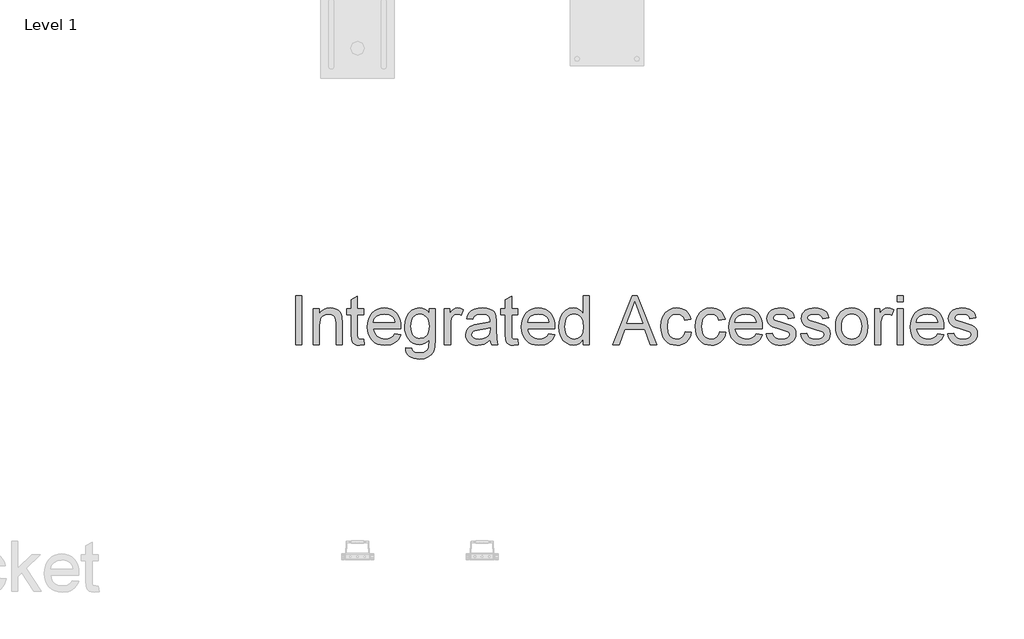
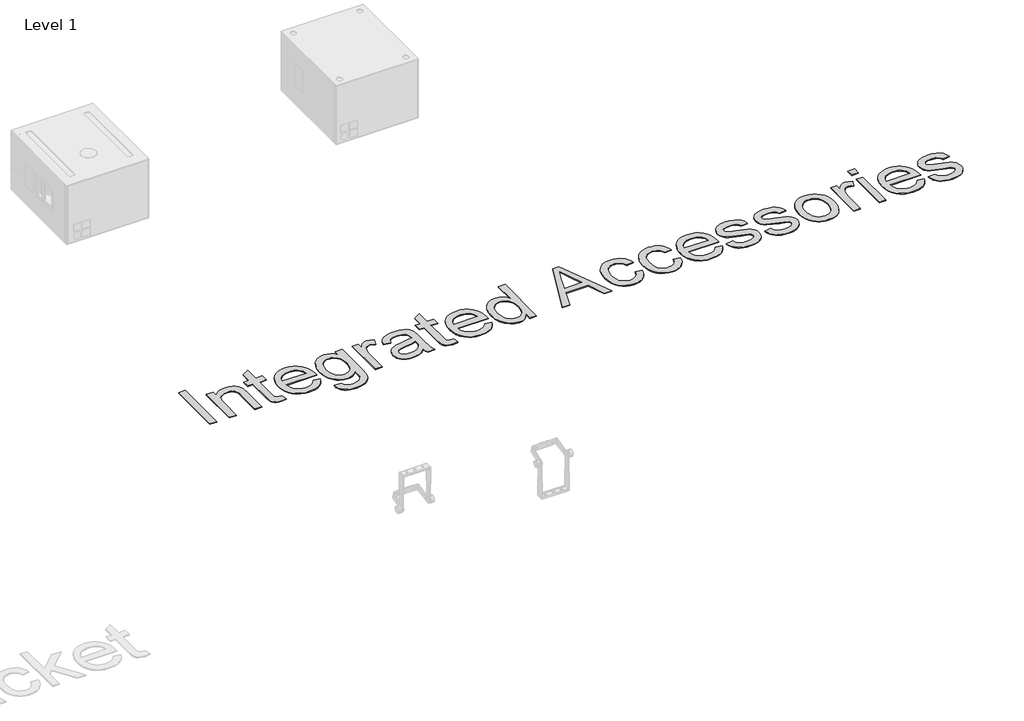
# One storey, part 24 of 29: 1 proxy.
"""IFC4 building model written with IfcOpenShell, lengths in millimetres."""

from ifc_helpers import new_model, si_unit, origin, origin_with_axes, place, context, project, spatial, polyline, outline, extrude, element, save

model = new_model("IFC4")

# Units and contexts
model_context = context("Model", 3, world=origin())
ifc_project = project(units=[si_unit("LENGTHUNIT", "METRE", prefix="MILLI")], contexts=[model_context])

# Site, building, storey
site = spatial("IfcSite", under=ifc_project)
building = spatial("IfcBuilding", under=site)
storey = spatial("IfcBuildingStorey", under=building, Name="Level 1", Elevation=0.0)

# Proxy
placement = place(None, origin())
element("IfcBuildingElementProxy", 1, Name="400mm Arial", ObjectType="400mm Arial", at=placement, inside=storey, context=model_context, shape_type="SweptSolid", body=[
    extrude(outline(polyline([(-11437.7764845, 6146.5012301), (-11437.7764845, 6538.2588058), (-11388.8067875, 6538.2588058), (-11388.8067875, 6146.5012301), (-11437.7764845, 6146.5012301)])), origin_with_axes(), (0.0, 0.0, 1.0), 5.0),
    extrude(outline(polyline([(-11296.9886057, 6146.5012301), (-11296.9886057, 6434.1981998), (-11248.0189088, 6434.1981998), (-11248.0189088, 6394.0277452), (-11231.006243, 6414.2803494), (-11210.5743065, 6428.7464952), (-11186.7230991, 6437.4261827), (-11159.4526209, 6440.3194119), (-11135.3144817, 6437.9880909), (-11113.2087762, 6430.9941278), (-11094.7734069, 6420.2102736), (-11081.6462762, 6406.5092793), (-11072.7394343, 6389.9270113), (-11066.9649315, 6370.4993361), (-11064.3825451, 6323.1555861), (-11064.3825451, 6146.5012301), (-11113.3522421, 6146.5012301), (-11113.3522421, 6316.5561543), (-11114.7629902, 6341.8778873), (-11118.9952345, 6359.8828588), (-11126.8021711, 6372.7828352), (-11138.9369959, 6382.7895823), (-11154.4910915, 6389.2096818), (-11172.5558406, 6391.3497149), (-11201.2370669, 6386.543607), (-11225.6860489, 6372.1252831), (-11235.4566751, 6360.3551008), (-11242.4356938, 6344.2689857), (-11246.623105, 6323.8669379), (-11248.0189088, 6299.1489573), (-11248.0189088, 6146.5012301), (-11296.9886057, 6146.5012301)])), origin_with_axes(), (0.0, 0.0, 1.0), 5.0),
    extrude(outline(polyline([(-10892.9886057, 6187.3411922), (-10886.8673936, 6145.066571), (-10923.4990224, 6140.3800179), (-10947.0035205, 6142.4124517), (-10964.5302724, 6148.5097528), (-10976.9161625, 6157.9067698), (-10984.9980754, 6169.8383513), (-10989.4455186, 6190.3300653), (-10990.9279997, 6225.4074801), (-10990.9279997, 6385.2285028), (-11027.6552724, 6385.2285028), (-11027.6552724, 6434.1981998), (-10990.9279997, 6434.1981998), (-10990.9279997, 6504.1139195), (-10941.9583027, 6532.9027452), (-10941.9583027, 6434.1981998), (-10892.9886057, 6434.1981998), (-10892.9886057, 6385.2285028), (-10941.9583027, 6385.2285028), (-10941.9583027, 6226.8421392), (-10939.3759163, 6201.5921392), (-10931.0070716, 6192.6494308), (-10914.3172042, 6189.3497149), (-10892.9886057, 6187.3411922)])), origin_with_axes(), (0.0, 0.0, 1.0), 5.0),
    extrude(outline(polyline([(-10642.5927724, 6232.1981998), (-10594.5795148, 6226.0769876), (-10601.9411093, 6206.8465781), (-10611.8791124, 6189.8996676), (-10624.3935241, 6175.2362561), (-10639.4843444, 6162.8563437), (-10656.9961519, 6153.0229512), (-10676.7735252, 6145.9990994), (-10723.1249694, 6140.3800179), (-10753.5098534, 6142.803994), (-10780.583066, 6150.0759223), (-10804.3446071, 6162.1958027), (-10824.7944769, 6179.1636354), (-10841.2392568, 6200.5071782), (-10852.9855281, 6225.7541893), (-10860.0332909, 6254.9046687), (-10862.3825451, 6287.9586164), (-10860.0093799, 6322.1333915), (-10852.8898841, 6352.2552547), (-10841.0240579, 6378.3242059), (-10824.4119012, 6400.3402452), (-10804.0158311, 6417.8311306), (-10780.7982648, 6430.3246202), (-10754.7592023, 6437.820714), (-10725.8986436, 6440.3194119), (-10697.9676244, 6437.8266917), (-10672.7086578, 6430.3485312), (-10650.1217438, 6417.8849303), (-10630.2068822, 6400.4358892), (-10613.9504014, 6378.4676718), (-10602.3386294, 6352.4465426), (-10595.3715662, 6322.3725014), (-10593.0492118, 6288.2455482), (-10593.3361436, 6275.0466846), (-10813.4128482, 6275.0466846), (-10810.5764076, 6255.5054322), (-10804.936404, 6238.3911448), (-10796.4928375, 6223.7038224), (-10785.245708, 6211.4434649), (-10756.8275025, 6194.8731524), (-10722.16853, 6189.3497149), (-10696.1055565, 6191.9081903), (-10674.1552724, 6199.5836164), (-10656.3176777, 6212.854213), (-10642.5927724, 6232.1981998)]), holes=[polyline([(-10813.4128482, 6324.0163816), (-10642.0189088, 6324.0163816), (-10648.6422516, 6349.8880672), (-10661.6259163, 6368.3951695), (-10674.9802014, 6378.4377831), (-10690.1756322, 6385.6110785), (-10726.0899315, 6391.3497149), (-10759.0990461, 6386.7707613), (-10786.3934353, 6373.0339005), (-10805.3668018, 6351.6216136), (-10813.4128482, 6324.0163816)])]), origin_with_axes(), (0.0, 0.0, 1.0), 5.0),
    extrude(outline(polyline([(-10556.3219391, 6122.0163816), (-10507.3522421, 6115.8951695), (-10501.9483595, 6100.5921392), (-10491.4753482, 6090.0713058), (-10470.8879902, 6081.893749), (-10443.9403103, 6079.1678967), (-10415.1993065, 6082.2524138), (-10393.822886, 6091.5059649), (-10378.9980754, 6106.3307755), (-10369.9119012, 6126.129071), (-10366.5643633, 6183.2285028), (-10382.8596995, 6167.160321), (-10401.0440035, 6155.6830482), (-10421.1172752, 6148.7966846), (-10443.0795148, 6146.5012301), (-10469.9285619, 6149.1732826), (-10493.5675593, 6157.1894403), (-10513.996507, 6170.5497031), (-10531.215405, 6189.254071), (-10544.8775439, 6211.6945302), (-10554.6362146, 6236.2630672), (-10560.491417, 6262.9596818), (-10562.4431512, 6291.784374), (-10558.9401919, 6331.3211874), (-10548.4313141, 6367.6778399), (-10531.2871379, 6398.4871439), (-10507.8782838, 6421.3819119), (-10479.0057696, 6435.5850369), (-10445.4706133, 6440.3194119), (-10422.5698676, 6437.6413816), (-10401.785244, 6429.6072907), (-10383.1167426, 6416.2171392), (-10366.5643633, 6397.470927), (-10366.5643633, 6434.1981998), (-10317.5946663, 6434.1981998), (-10317.5946663, 6185.8108892), (-10320.9422042, 6128.460392), (-10330.9848179, 6090.6929914), (-10348.2844154, 6065.6462348), (-10373.402905, 6046.4576695), (-10405.7903339, 6034.2630672), (-10444.8967497, 6030.1981998), (-10490.4591313, 6035.9248806), (-10509.6088413, 6043.0832317), (-10526.3375641, 6053.1049232), (-10539.8502594, 6066.0019107), (-10549.351887, 6081.7861496), (-10554.8424469, 6100.4576399), (-10556.3219391, 6122.0163816)]), holes=[polyline([(-10513.4734542, 6295.1319119), (-10508.248904, 6250.2151268), (-10501.7182163, 6233.0201399), (-10492.5752535, 6219.3340899), (-10481.4596344, 6208.8939561), (-10469.0109779, 6201.4367177), (-10455.229284, 6196.9623747), (-10440.1145527, 6195.470927), (-10411.4333264, 6201.4008513), (-10387.7494959, 6219.190624), (-10378.4810004, 6232.7421747), (-10371.8606464, 6249.6771297), (-10366.5643633, 6293.6972528), (-10372.0160679, 6336.1512064), (-10378.8306985, 6352.9217734), (-10388.3711815, 6366.7214005), (-10412.4017213, 6385.1926363), (-10426.0847823, 6389.8104453), (-10440.8797042, 6391.3497149), (-10455.4265496, 6389.8343562), (-10468.843601, 6385.2882802), (-10492.2883216, 6367.1039763), (-10501.5568171, 6353.5135703), (-10508.1771711, 6336.9880909), (-10513.4734542, 6295.1319119)])]), origin_with_axes(), (0.0, 0.0, 1.0), 5.0),
    extrude(outline(polyline([(-10244.1401209, 6146.5012301), (-10244.1401209, 6434.1981998), (-10201.291636, 6434.1981998), (-10201.291636, 6391.6366467), (-10185.4625641, 6416.3127831), (-10170.8768633, 6430.8506619), (-10156.2433406, 6437.9522244), (-10140.2708027, 6440.3194119), (-10115.8815982, 6436.5414763), (-10091.1098179, 6425.2076695), (-10107.4649315, 6381.3071013), (-10124.6808406, 6388.8390615), (-10141.8967497, 6391.3497149), (-10156.5183169, 6388.9347054), (-10169.5856701, 6381.689677), (-10180.1423699, 6370.1645823), (-10187.2319769, 6354.909374), (-10193.1858122, 6327.5552073), (-10195.1704239, 6297.7142982), (-10195.1704239, 6146.5012301), (-10244.1401209, 6146.5012301)])), origin_with_axes(), (0.0, 0.0, 1.0), 5.0),
    extrude(outline(polyline([(-9876.8673936, 6183.2285028), (-9900.2642923, 6163.1671865), (-9924.3546095, 6150.0400558), (-9949.688298, 6142.7950274), (-9976.8153103, 6140.3800179), (-9998.6191396, 6141.8326103), (-10017.7389608, 6146.1903873), (-10034.1747741, 6153.4533489), (-10047.9265792, 6163.6214952), (-10058.7851552, 6176.0492296), (-10066.5412809, 6190.0909554), (-10071.1949563, 6205.7466728), (-10072.7461815, 6223.0163816), (-10070.402905, 6243.3168077), (-10063.3730754, 6261.752177), (-10052.5294438, 6277.533427), (-10038.744761, 6289.8714952), (-10004.4564088, 6305.939677), (-9962.0861436, 6313.3042604), (-9912.0165413, 6321.0514195), (-9877.1543254, 6330.1375937), (-9876.8673936, 6341.0410028), (-9880.2388425, 6362.8956429), (-9890.3531891, 6377.1944119), (-9912.9729807, 6387.8108892), (-9944.4876588, 6391.3497149), (-9973.6590603, 6388.9944829), (-9994.0312194, 6381.9287869), (-10007.9235016, 6368.8614337), (-10017.6552724, 6348.5012301), (-10066.6249694, 6354.6224422), (-10058.1246143, 6381.4027452), (-10045.4398368, 6402.4444119), (-10027.3870432, 6418.5365047), (-10002.7826398, 6430.4680861), (-9972.6906654, 6437.8565804), (-9938.1751588, 6440.3194119), (-9905.0704002, 6438.1435123), (-9878.8280944, 6431.6158134), (-9859.0417544, 6421.8003541), (-9845.3048936, 6409.7611732), (-9836.1948084, 6394.8765852), (-9830.2887951, 6376.5249043), (-9827.8976966, 6333.6764195), (-9827.8976966, 6272.7512301), (-9825.4109542, 6187.675946), (-9815.6552724, 6146.5012301), (-9864.6249694, 6146.5012301), (-9872.4677724, 6163.5258513), (-9876.8673936, 6183.2285028)]), holes=[polyline([(-9876.8673936, 6281.1678967), (-9909.7689088, 6273.0142509), (-9955.8692875, 6266.1517982), (-9998.0004429, 6258.2133513), (-10008.9636294, 6252.7855577), (-10017.0814088, 6245.3014195), (-10022.1027156, 6236.3348001), (-10023.7764845, 6226.4595634), (-10020.1300593, 6211.8977736), (-10009.1907838, 6199.9661922), (-9991.1977677, 6192.0038342), (-9966.3901209, 6189.3497149), (-9940.0880375, 6192.2788106), (-9916.8465603, 6201.0660975), (-9898.0047042, 6214.0138958), (-9884.9014845, 6229.4245255), (-9879.0911152, 6245.3014195), (-9877.1543254, 6267.2995255), (-9876.8673936, 6281.1678967)])]), origin_with_axes(), (0.0, 0.0, 1.0), 5.0),
    extrude(outline(polyline([(-9656.5037572, 6187.3411922), (-9650.3825451, 6145.066571), (-9687.0141739, 6140.3800179), (-9710.518672, 6142.4124517), (-9728.0454239, 6148.5097528), (-9740.4313141, 6157.9067698), (-9748.5132269, 6169.8383513), (-9752.9606701, 6190.3300653), (-9754.4431512, 6225.4074801), (-9754.4431512, 6385.2285028), (-9791.1704239, 6385.2285028), (-9791.1704239, 6434.1981998), (-9754.4431512, 6434.1981998), (-9754.4431512, 6504.1139195), (-9705.4734542, 6532.9027452), (-9705.4734542, 6434.1981998), (-9656.5037572, 6434.1981998), (-9656.5037572, 6385.2285028), (-9705.4734542, 6385.2285028), (-9705.4734542, 6226.8421392), (-9702.8910679, 6201.5921392), (-9694.5222232, 6192.6494308), (-9677.8323557, 6189.3497149), (-9656.5037572, 6187.3411922)])), origin_with_axes(), (0.0, 0.0, 1.0), 5.0),
    extrude(outline(polyline([(-9406.1079239, 6232.1981998), (-9358.0946663, 6226.0769876), (-9365.4562608, 6206.8465781), (-9375.3942639, 6189.8996676), (-9387.9086756, 6175.2362561), (-9402.9994959, 6162.8563437), (-9420.5113034, 6153.0229512), (-9440.2886768, 6145.9990994), (-9486.6401209, 6140.3800179), (-9517.0250049, 6142.803994), (-9544.0982175, 6150.0759223), (-9567.8597587, 6162.1958027), (-9588.3096285, 6179.1636354), (-9604.7544083, 6200.5071782), (-9616.5006796, 6225.7541893), (-9623.5484424, 6254.9046687), (-9625.8976966, 6287.9586164), (-9623.5245314, 6322.1333915), (-9616.4050357, 6352.2552547), (-9604.5392094, 6378.3242059), (-9587.9270527, 6400.3402452), (-9567.5309826, 6417.8311306), (-9544.3134163, 6430.3246202), (-9518.2743538, 6437.820714), (-9489.4137951, 6440.3194119), (-9461.4827759, 6437.8266917), (-9436.2238093, 6430.3485312), (-9413.6368953, 6417.8849303), (-9393.7220338, 6400.4358892), (-9377.4655529, 6378.4676718), (-9365.8537809, 6352.4465426), (-9358.8867177, 6322.3725014), (-9356.5643633, 6288.2455482), (-9356.8512951, 6275.0466846), (-9576.9279997, 6275.0466846), (-9574.0915591, 6255.5054322), (-9568.4515555, 6238.3911448), (-9560.007989, 6223.7038224), (-9548.7608595, 6211.4434649), (-9520.342654, 6194.8731524), (-9485.6836815, 6189.3497149), (-9459.620708, 6191.9081903), (-9437.6704239, 6199.5836164), (-9419.8328292, 6212.854213), (-9406.1079239, 6232.1981998)]), holes=[polyline([(-9576.9279997, 6324.0163816), (-9405.5340603, 6324.0163816), (-9412.1574031, 6349.8880672), (-9425.1410679, 6368.3951695), (-9438.4953529, 6378.4377831), (-9453.6907838, 6385.6110785), (-9489.605083, 6391.3497149), (-9522.6141976, 6386.7707613), (-9549.9085868, 6373.0339005), (-9568.8819533, 6351.6216136), (-9576.9279997, 6324.0163816)])]), origin_with_axes(), (0.0, 0.0, 1.0), 5.0),
    extrude(outline(polyline([(-9130.0795148, 6146.5012301), (-9130.0795148, 6192.6972528), (-9144.7309708, 6169.8084625), (-9162.4788993, 6153.4593267), (-9183.3233003, 6143.6498451), (-9207.2641739, 6140.3800179), (-9238.9223179, 6145.1143929), (-9267.9024315, 6159.3175179), (-9292.4351019, 6181.9970871), (-9310.7509163, 6212.1607945), (-9322.1564561, 6248.5891799), (-9325.9583027, 6290.0627831), (-9322.4553434, 6331.0223001), (-9311.9464656, 6368.0125937), (-9294.4436247, 6398.9294971), (-9269.9587762, 6421.6688437), (-9240.3450214, 6435.6567698), (-9207.4554618, 6440.3194119), (-9183.496655, 6436.9838295), (-9162.3115224, 6426.9770823), (-9144.3543728, 6411.6381856), (-9130.0795148, 6392.3061543), (-9130.0795148, 6538.2588058), (-9081.1098179, 6538.2588058), (-9081.1098179, 6146.5012301), (-9130.0795148, 6146.5012301)]), holes=[polyline([(-9276.9886057, 6290.254071), (-9271.4651682, 6245.9589715), (-9264.5608714, 6228.6085632), (-9254.8948557, 6214.456249), (-9230.816494, 6195.6263484), (-9217.2888543, 6190.9188733), (-9202.7689088, 6189.3497149), (-9174.733279, 6195.3394166), (-9151.2646474, 6213.3085217), (-9141.9961519, 6226.869039), (-9135.375798, 6243.591784), (-9130.0795148, 6286.5239573), (-9135.4714419, 6333.4612206), (-9142.2113508, 6351.5319474), (-9151.6472232, 6366.004071), (-9163.0557518, 6377.0927902), (-9175.7136294, 6385.0133039), (-9189.620856, 6389.7656122), (-9204.7774315, 6391.3497149), (-9219.5843089, 6389.8283785), (-9233.1119485, 6385.2643693), (-9245.3603505, 6377.6576872), (-9256.3295148, 6367.0083323), (-9265.3678671, 6353.0831725), (-9271.823833, 6335.6490757), (-9276.9886057, 6290.254071)])]), origin_with_axes(), (0.0, 0.0, 1.0), 5.0),
    extrude(outline(polyline([(-8894.0302724, 6146.5012301), (-8737.6524315, 6538.2588058), (-8695.9516739, 6538.2588058), (-8539.6694769, 6146.5012301), (-8591.4128482, 6146.5012301), (-8636.1742118, 6268.9254725), (-8797.6211815, 6268.9254725), (-8842.3825451, 6146.5012301), (-8894.0302724, 6146.5012301)]), holes=[polyline([(-8779.6401209, 6317.8951695), (-8654.0596285, 6317.8951695), (-8689.447886, 6414.2086164), (-8716.8976966, 6489.2891088), (-8741.2869012, 6422.6252831), (-8779.6401209, 6317.8951695)])]), origin_with_axes(), (0.0, 0.0, 1.0), 5.0),
    extrude(outline(polyline([(-8309.8370906, 6250.5618361), (-8260.8673936, 6244.440624), (-8266.1935655, 6221.333646), (-8274.520566, 6200.8867651), (-8285.848395, 6183.0999812), (-8300.1770527, 6167.9732945), (-8316.9027866, 6155.901236), (-8335.4218444, 6147.2783371), (-8355.734226, 6142.1045977), (-8377.8399315, 6140.3800179), (-8405.3046865, 6142.7860608), (-8429.930012, 6150.0041893), (-8451.715908, 6162.0344036), (-8470.6623747, 6178.8767035), (-8485.9982826, 6200.2142686), (-8496.9525025, 6225.7302784), (-8503.5250345, 6255.4247327), (-8505.7158785, 6289.2976316), (-8501.9738093, 6332.8754015), (-8490.7476019, 6370.642802), (-8471.8579239, 6401.1412632), (-8445.1254429, 6422.9122149), (-8413.1445006, 6435.9676126), (-8378.5094391, 6440.3194119), (-8356.7833205, 6438.8249753), (-8337.1314798, 6434.3416657), (-8319.553917, 6426.8694829), (-8304.0506322, 6416.408427), (-8290.8846462, 6403.1976079), (-8280.3189798, 6387.4761354), (-8272.353633, 6369.2440094), (-8266.9886057, 6348.5012301), (-8315.9583027, 6342.3800179), (-8324.8412336, 6363.7444829), (-8338.6737383, 6379.0594687), (-8356.6906654, 6388.2771534), (-8378.1268633, 6391.3497149), (-8394.7659199, 6389.8373451), (-8409.7730518, 6385.3002357), (-8423.1482589, 6377.7383868), (-8434.8915413, 6367.1517982), (-8444.4529464, 6353.2953825), (-8451.2825214, 6335.924052), (-8456.7461815, 6290.6366467), (-8451.4020764, 6244.7395113), (-8444.721945, 6227.2516148), (-8435.369761, 6213.4041657), (-8423.8596107, 6202.8803435), (-8410.7055802, 6195.3633276), (-8395.9076694, 6190.8531181), (-8379.4658785, 6189.3497149), (-8354.108279, 6193.1037395), (-8333.3176777, 6204.3658134), (-8318.1939798, 6223.4228683), (-8309.8370906, 6250.5618361)])), origin_with_axes(), (0.0, 0.0, 1.0), 5.0),
    extrude(outline(polyline([(-8034.3825451, 6250.5618361), (-7985.4128482, 6244.440624), (-7990.73902, 6221.333646), (-7999.0660205, 6200.8867651), (-8010.3938496, 6183.0999812), (-8024.7225072, 6167.9732945), (-8041.4482411, 6155.901236), (-8059.9672989, 6147.2783371), (-8080.2796805, 6142.1045977), (-8102.385386, 6140.3800179), (-8129.850141, 6142.7860608), (-8154.4754665, 6150.0041893), (-8176.2613626, 6162.0344036), (-8195.2078292, 6178.8767035), (-8210.5437371, 6200.2142686), (-8221.4979571, 6225.7302784), (-8228.070489, 6255.4247327), (-8230.261333, 6289.2976316), (-8226.5192639, 6332.8754015), (-8215.2930565, 6370.642802), (-8196.4033785, 6401.1412632), (-8169.6708974, 6422.9122149), (-8137.6899552, 6435.9676126), (-8103.0548936, 6440.3194119), (-8081.328775, 6438.8249753), (-8061.6769343, 6434.3416657), (-8044.0993716, 6426.8694829), (-8028.5960868, 6416.408427), (-8015.4301008, 6403.1976079), (-8004.8644343, 6387.4761354), (-7996.8990875, 6369.2440094), (-7991.5340603, 6348.5012301), (-8040.5037572, 6342.3800179), (-8049.3866881, 6363.7444829), (-8063.2191929, 6379.0594687), (-8081.2361199, 6388.2771534), (-8102.6723179, 6391.3497149), (-8119.3113744, 6389.8373451), (-8134.3185063, 6385.3002357), (-8147.6937134, 6377.7383868), (-8159.4369959, 6367.1517982), (-8168.9984009, 6353.2953825), (-8175.827976, 6335.924052), (-8181.291636, 6290.6366467), (-8175.9475309, 6244.7395113), (-8169.2673995, 6227.2516148), (-8159.9152156, 6213.4041657), (-8148.4050652, 6202.8803435), (-8135.2510347, 6195.3633276), (-8120.453124, 6190.8531181), (-8104.011333, 6189.3497149), (-8078.6537336, 6193.1037395), (-8057.8631322, 6204.3658134), (-8042.7394343, 6223.4228683), (-8034.3825451, 6250.5618361)])), origin_with_axes(), (0.0, 0.0, 1.0), 5.0),
    extrude(outline(polyline([(-7741.1382269, 6232.1981998), (-7693.1249694, 6226.0769876), (-7700.4865638, 6206.8465781), (-7710.4245669, 6189.8996676), (-7722.9389786, 6175.2362561), (-7738.0297989, 6162.8563437), (-7755.5416064, 6153.0229512), (-7775.3189798, 6145.9990994), (-7821.6704239, 6140.3800179), (-7852.0553079, 6142.803994), (-7879.1285205, 6150.0759223), (-7902.8900617, 6162.1958027), (-7923.3399315, 6179.1636354), (-7939.7847113, 6200.5071782), (-7951.5309826, 6225.7541893), (-7958.5787454, 6254.9046687), (-7960.9279997, 6287.9586164), (-7958.5548344, 6322.1333915), (-7951.4353387, 6352.2552547), (-7939.5695125, 6378.3242059), (-7922.9573557, 6400.3402452), (-7902.5612857, 6417.8311306), (-7879.3437194, 6430.3246202), (-7853.3046569, 6437.820714), (-7824.4440982, 6440.3194119), (-7796.513079, 6437.8266917), (-7771.2541124, 6430.3485312), (-7748.6671983, 6417.8849303), (-7728.7523368, 6400.4358892), (-7712.495856, 6378.4676718), (-7700.8840839, 6352.4465426), (-7693.9170207, 6322.3725014), (-7691.5946663, 6288.2455482), (-7691.8815982, 6275.0466846), (-7911.9583027, 6275.0466846), (-7909.1218621, 6255.5054322), (-7903.4818586, 6238.3911448), (-7895.038292, 6223.7038224), (-7883.7911625, 6211.4434649), (-7855.3729571, 6194.8731524), (-7820.7139845, 6189.3497149), (-7794.651011, 6191.9081903), (-7772.7007269, 6199.5836164), (-7754.8631322, 6212.854213), (-7741.1382269, 6232.1981998)]), holes=[polyline([(-7911.9583027, 6324.0163816), (-7740.5643633, 6324.0163816), (-7747.1877061, 6349.8880672), (-7760.1713709, 6368.3951695), (-7773.5256559, 6378.4377831), (-7788.7210868, 6385.6110785), (-7824.635386, 6391.3497149), (-7857.6445006, 6386.7707613), (-7884.9388898, 6373.0339005), (-7903.9122563, 6351.6216136), (-7911.9583027, 6324.0163816)])]), origin_with_axes(), (0.0, 0.0, 1.0), 5.0),
    extrude(outline(polyline([(-7660.9886057, 6232.1981998), (-7612.0189088, 6238.3194119), (-7604.2956607, 6217.3733892), (-7589.3512951, 6201.9747149), (-7567.0901682, 6192.5059649), (-7537.416636, 6189.3497149), (-7508.1017686, 6192.2429441), (-7487.4904997, 6200.9226316), (-7475.2958974, 6213.4998096), (-7471.23103, 6228.0855104), (-7475.3198084, 6240.5670445), (-7487.5861436, 6250.0836164), (-7537.9904997, 6264.0476316), (-7611.7319769, 6288.0064384), (-7630.3945006, 6300.0456193), (-7643.9161625, 6315.9822907), (-7652.1295858, 6334.8002357), (-7654.8673936, 6355.4832376), (-7652.667583, 6374.4566041), (-7646.0681512, 6391.9714005), (-7635.6668728, 6407.3342083), (-7622.0615224, 6419.8516088), (-7590.9294201, 6434.3416657), (-7548.7982648, 6440.3194119), (-7516.924922, 6437.9163579), (-7489.2120906, 6430.707196), (-7466.9270527, 6419.3973001), (-7451.3370906, 6404.6920445), (-7441.0075451, 6385.5034791), (-7434.5037572, 6360.7436543), (-7483.4734542, 6354.6224422), (-7489.6544438, 6370.0330719), (-7501.8849125, 6381.6418551), (-7520.2844154, 6388.9227499), (-7544.9725072, 6391.3497149), (-7573.0918254, 6389.0303494), (-7591.8380375, 6382.0722528), (-7602.3827819, 6372.0296392), (-7605.8976966, 6360.4567225), (-7600.0634163, 6346.2057755), (-7581.7954239, 6335.3980104), (-7539.6164466, 6324.972821), (-7467.7400262, 6301.9226316), (-7448.7547042, 6290.8996676), (-7434.3602913, 6275.8118361), (-7425.2860726, 6256.6113153), (-7422.261333, 6233.2502831), (-7425.8121143, 6209.1001884), (-7436.464458, 6186.3847528), (-7453.8118775, 6166.8853446), (-7477.447886, 6152.3833323), (-7505.9976019, 6143.3808465), (-7538.0861436, 6140.3800179), (-7564.4420267, 6141.8266325), (-7587.4623273, 6146.1664763), (-7607.1470456, 6153.3995492), (-7623.4961815, 6163.5258513), (-7636.8504665, 6176.4975606), (-7647.5506322, 6192.2668551), (-7655.5966786, 6210.8337348), (-7660.9886057, 6232.1981998)])), origin_with_axes(), (0.0, 0.0, 1.0), 5.0),
    extrude(outline(polyline([(-7385.5340603, 6232.1981998), (-7336.5643633, 6238.3194119), (-7328.8411152, 6217.3733892), (-7313.8967497, 6201.9747149), (-7291.6356228, 6192.5059649), (-7261.9620906, 6189.3497149), (-7232.6472232, 6192.2429441), (-7212.0359542, 6200.9226316), (-7199.8413519, 6213.4998096), (-7195.7764845, 6228.0855104), (-7199.8652629, 6240.5670445), (-7212.1315982, 6250.0836164), (-7262.5359542, 6264.0476316), (-7336.2774315, 6288.0064384), (-7354.9399552, 6300.0456193), (-7368.4616171, 6315.9822907), (-7376.6750404, 6334.8002357), (-7379.4128482, 6355.4832376), (-7377.2130375, 6374.4566041), (-7370.6136057, 6391.9714005), (-7360.2123273, 6407.3342083), (-7346.6069769, 6419.8516088), (-7315.4748747, 6434.3416657), (-7273.3437194, 6440.3194119), (-7241.4703766, 6437.9163579), (-7213.7575451, 6430.707196), (-7191.4725072, 6419.3973001), (-7175.8825451, 6404.6920445), (-7165.5529997, 6385.5034791), (-7159.0492118, 6360.7436543), (-7208.0189088, 6354.6224422), (-7214.1998983, 6370.0330719), (-7226.4303671, 6381.6418551), (-7244.8298699, 6388.9227499), (-7269.5179618, 6391.3497149), (-7297.63728, 6389.0303494), (-7316.3834921, 6382.0722528), (-7326.9282364, 6372.0296392), (-7330.4431512, 6360.4567225), (-7324.6088709, 6346.2057755), (-7306.3408785, 6335.3980104), (-7264.1619012, 6324.972821), (-7192.2854807, 6301.9226316), (-7173.3001588, 6290.8996676), (-7158.9057459, 6275.8118361), (-7149.8315271, 6256.6113153), (-7146.8067875, 6233.2502831), (-7150.3575688, 6209.1001884), (-7161.0099125, 6186.3847528), (-7178.3573321, 6166.8853446), (-7201.9933406, 6152.3833323), (-7230.5430565, 6143.3808465), (-7262.6315982, 6140.3800179), (-7288.9874812, 6141.8266325), (-7312.0077819, 6146.1664763), (-7331.6925001, 6153.3995492), (-7348.041636, 6163.5258513), (-7361.3959211, 6176.4975606), (-7372.0960868, 6192.2668551), (-7380.1421332, 6210.8337348), (-7385.5340603, 6232.1981998)])), origin_with_axes(), (0.0, 0.0, 1.0), 5.0),
    extrude(outline(polyline([(-7103.9583027, 6290.3497149), (-7101.3101611, 6327.609007), (-7093.3657364, 6359.715482), (-7080.1250286, 6386.6691396), (-7061.5880375, 6408.4699801), (-7042.9255139, 6422.4041065), (-7022.3262004, 6432.3570539), (-6999.7900972, 6438.3288224), (-6975.3172042, 6440.3194119), (-6948.3007802, 6437.8954358), (-6923.8727203, 6430.6235075), (-6902.0330245, 6418.5036271), (-6882.7816929, 6401.5357945), (-6867.0691869, 6380.2938733), (-6855.8459684, 6355.3517272), (-6849.1120373, 6326.7093562), (-6846.8673936, 6294.3667604), (-6850.8366171, 6244.8949327), (-6862.7442875, 6207.2351316), (-6882.2436957, 6179.0321249), (-6908.9881322, 6157.9306808), (-6940.7538756, 6144.7676837), (-6975.3172042, 6140.3800179), (-7002.7281595, 6142.7950274), (-7027.3833737, 6150.0400558), (-7049.282847, 6162.1151032), (-7068.4265792, 6179.0201695), (-7083.9717082, 6200.4683229), (-7095.0753718, 6226.1726316), (-7101.73757, 6256.1330956), (-7103.9583027, 6290.3497149)]), holes=[polyline([(-7054.9886057, 6290.4453588), (-7053.5718799, 6266.6927843), (-7049.3217023, 6246.1263484), (-7042.2380731, 6228.7460513), (-7032.3209921, 6214.5518929), (-7020.2579002, 6203.5259401), (-7006.7362383, 6195.6502594), (-6991.7560063, 6190.924851), (-6975.3172042, 6189.3497149), (-6958.9620906, 6190.9338177), (-6944.041636, 6195.6861259), (-6930.5558406, 6203.6066396), (-6918.5047042, 6214.6953588), (-6908.5876232, 6229.0299943), (-6901.503994, 6246.6882566), (-6897.2538164, 6267.6701458), (-6895.8370906, 6291.9756619), (-6897.262783, 6314.9750404), (-6901.5398605, 6335.0034791), (-6908.6683228, 6352.0609779), (-6918.6481701, 6366.1475369), (-6930.7441396, 6377.1734898), (-6944.2209684, 6385.0491704), (-6959.0786566, 6389.7745788), (-6975.3172042, 6391.3497149), (-6991.7560063, 6389.7805565), (-7006.7362383, 6385.0730814), (-7020.2579002, 6377.2272895), (-7032.3209921, 6366.2431808), (-7042.2380731, 6352.0908667), (-7049.3217023, 6334.7404583), (-7053.5718799, 6314.1919557), (-7054.9886057, 6290.4453588)])]), origin_with_axes(), (0.0, 0.0, 1.0), 5.0),
    extrude(outline(polyline([(-6791.7764845, 6146.5012301), (-6791.7764845, 6434.1981998), (-6748.9279997, 6434.1981998), (-6748.9279997, 6391.6366467), (-6733.0989277, 6416.3127831), (-6718.5132269, 6430.8506619), (-6703.8797042, 6437.9522244), (-6687.9071663, 6440.3194119), (-6663.5179618, 6436.5414763), (-6638.7461815, 6425.2076695), (-6655.1012951, 6381.3071013), (-6672.3172042, 6388.8390615), (-6689.5331133, 6391.3497149), (-6704.1546805, 6388.9347054), (-6717.2220338, 6381.689677), (-6727.7787336, 6370.1645823), (-6734.8683406, 6354.909374), (-6740.8221758, 6327.5552073), (-6742.8067875, 6297.7142982), (-6742.8067875, 6146.5012301), (-6791.7764845, 6146.5012301)])), origin_with_axes(), (0.0, 0.0, 1.0), 5.0),
    extrude(outline(polyline([(-6608.1401209, 6489.2891088), (-6608.1401209, 6538.2588058), (-6559.1704239, 6538.2588058), (-6559.1704239, 6489.2891088), (-6608.1401209, 6489.2891088)])), origin_with_axes(), (0.0, 0.0, 1.0), 5.0),
    extrude(outline(polyline([(-6608.1401209, 6146.5012301), (-6608.1401209, 6434.1981998), (-6559.1704239, 6434.1981998), (-6559.1704239, 6146.5012301), (-6608.1401209, 6146.5012301)])), origin_with_axes(), (0.0, 0.0, 1.0), 5.0),
    extrude(outline(polyline([(-6284.2897421, 6232.1981998), (-6236.2764845, 6226.0769876), (-6243.638079, 6206.8465781), (-6253.5760821, 6189.8996676), (-6266.0904938, 6175.2362561), (-6281.1813141, 6162.8563437), (-6298.6931216, 6153.0229512), (-6318.4704949, 6145.9990994), (-6364.8219391, 6140.3800179), (-6395.2068231, 6142.803994), (-6422.2800357, 6150.0759223), (-6446.0415768, 6162.1958027), (-6466.4914466, 6179.1636354), (-6482.9362265, 6200.5071782), (-6494.6824978, 6225.7541893), (-6501.7302606, 6254.9046687), (-6504.0795148, 6287.9586164), (-6501.7063496, 6322.1333915), (-6494.5868538, 6352.2552547), (-6482.7210276, 6378.3242059), (-6466.1088709, 6400.3402452), (-6445.7128008, 6417.8311306), (-6422.4952345, 6430.3246202), (-6396.456172, 6437.820714), (-6367.5956133, 6440.3194119), (-6339.6645941, 6437.8266917), (-6314.4056275, 6430.3485312), (-6291.8187134, 6417.8849303), (-6271.9038519, 6400.4358892), (-6255.6473711, 6378.4676718), (-6244.0355991, 6352.4465426), (-6237.0685359, 6322.3725014), (-6234.7461815, 6288.2455482), (-6235.0331133, 6275.0466846), (-6455.1098179, 6275.0466846), (-6452.2733773, 6255.5054322), (-6446.6333737, 6238.3911448), (-6438.1898072, 6223.7038224), (-6426.9426777, 6211.4434649), (-6398.5244722, 6194.8731524), (-6363.8654997, 6189.3497149), (-6337.8025262, 6191.9081903), (-6315.8522421, 6199.5836164), (-6298.0146474, 6212.854213), (-6284.2897421, 6232.1981998)]), holes=[polyline([(-6455.1098179, 6324.0163816), (-6283.7158785, 6324.0163816), (-6290.3392213, 6349.8880672), (-6303.322886, 6368.3951695), (-6316.6771711, 6378.4377831), (-6331.8726019, 6385.6110785), (-6367.7869012, 6391.3497149), (-6400.7960158, 6386.7707613), (-6428.090405, 6373.0339005), (-6447.0637714, 6351.6216136), (-6455.1098179, 6324.0163816)])]), origin_with_axes(), (0.0, 0.0, 1.0), 5.0),
    extrude(outline(polyline([(-6204.1401209, 6232.1981998), (-6155.1704239, 6238.3194119), (-6147.4471758, 6217.3733892), (-6132.5028103, 6201.9747149), (-6110.2416834, 6192.5059649), (-6080.5681512, 6189.3497149), (-6051.2532838, 6192.2429441), (-6030.6420148, 6200.9226316), (-6018.4474125, 6213.4998096), (-6014.3825451, 6228.0855104), (-6018.4713235, 6240.5670445), (-6030.7376588, 6250.0836164), (-6081.1420148, 6264.0476316), (-6154.8834921, 6288.0064384), (-6173.5460158, 6300.0456193), (-6187.0676777, 6315.9822907), (-6195.281101, 6334.8002357), (-6198.0189088, 6355.4832376), (-6195.8190982, 6374.4566041), (-6189.2196663, 6391.9714005), (-6178.8183879, 6407.3342083), (-6165.2130375, 6419.8516088), (-6134.0809353, 6434.3416657), (-6091.94978, 6440.3194119), (-6060.0764372, 6437.9163579), (-6032.3636057, 6430.707196), (-6010.0785679, 6419.3973001), (-5994.4886057, 6404.6920445), (-5984.1590603, 6385.5034791), (-5977.6552724, 6360.7436543), (-6026.6249694, 6354.6224422), (-6032.8059589, 6370.0330719), (-6045.0364277, 6381.6418551), (-6063.4359305, 6388.9227499), (-6088.1240224, 6391.3497149), (-6116.2433406, 6389.0303494), (-6134.9895527, 6382.0722528), (-6145.534297, 6372.0296392), (-6149.0492118, 6360.4567225), (-6143.2149315, 6346.2057755), (-6124.9469391, 6335.3980104), (-6082.7679618, 6324.972821), (-6010.8915413, 6301.9226316), (-5991.9062194, 6290.8996676), (-5977.5118065, 6275.8118361), (-5968.4375877, 6256.6113153), (-5965.4128482, 6233.2502831), (-5968.9636294, 6209.1001884), (-5979.6159732, 6186.3847528), (-5996.9633927, 6166.8853446), (-6020.5994012, 6152.3833323), (-6049.1491171, 6143.3808465), (-6081.2376588, 6140.3800179), (-6107.5935418, 6141.8266325), (-6130.6138425, 6146.1664763), (-6150.2985607, 6153.3995492), (-6166.6476966, 6163.5258513), (-6180.0019817, 6176.4975606), (-6190.7021474, 6192.2668551), (-6198.7481938, 6210.8337348), (-6204.1401209, 6232.1981998)])), origin_with_axes(), (0.0, 0.0, 1.0), 5.0),
])

save(model, "model.ifc")
